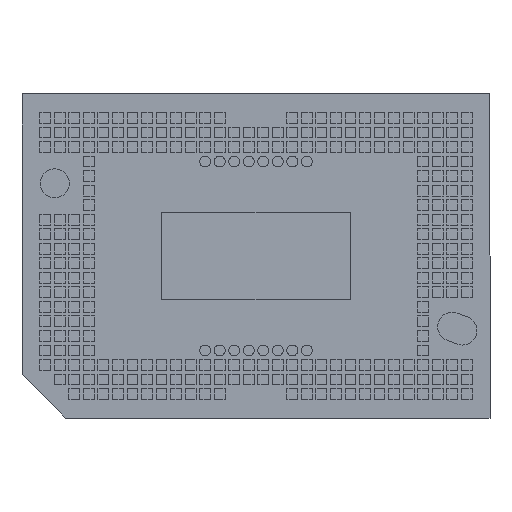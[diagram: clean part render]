
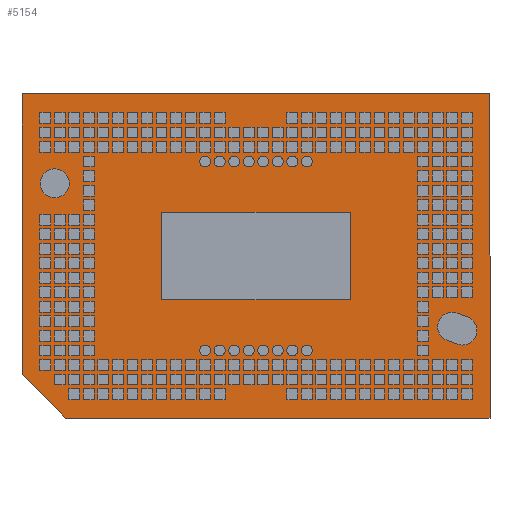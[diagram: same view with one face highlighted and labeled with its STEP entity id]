
A CAD part, front view. The second image highlights one B-rep face of the part: STEP entity #5154.
In plain terms, the highlighted planar face has unit normal (0, -1, 0).
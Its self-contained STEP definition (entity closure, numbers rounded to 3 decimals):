
#7 = PLANE ( 'NONE',  #772 ) ;
#13 = CARTESIAN_POINT ( 'NONE',  ( -16.1, 0., -8.15 ) ) ;
#205 = VERTEX_POINT ( 'NONE', #2010 ) ;
#211 = ORIENTED_EDGE ( 'NONE', *, *, #4730, .F. ) ;
#217 = VERTEX_POINT ( 'NONE', #1158 ) ;
#222 = CARTESIAN_POINT ( 'NONE',  ( -16.1, 0., -11.15 ) ) ;
#279 = ORIENTED_EDGE ( 'NONE', *, *, #3209, .F. ) ;
#292 = DIRECTION ( 'NONE',  ( 0., -1., 0. ) ) ;
#362 = ORIENTED_EDGE ( 'NONE', *, *, #3251, .F. ) ;
#371 = DIRECTION ( 'NONE',  ( -0.941, 0., 0.34 ) ) ;
#387 = EDGE_CURVE ( 'NONE', #205, #2119, #5415, .T. ) ;
#391 = DIRECTION ( 'NONE',  ( 0., -1., 0. ) ) ;
#396 = EDGE_CURVE ( 'NONE', #3843, #4180, #1358, .T. ) ;
#420 = LINE ( 'NONE', #1228, #2792 ) ;
#436 = CIRCLE ( 'NONE', #1005, 1. ) ;
#470 = DIRECTION ( 'NONE',  ( 1., 0., 0. ) ) ;
#482 = ORIENTED_EDGE ( 'NONE', *, *, #1541, .F. ) ;
#622 = EDGE_CURVE ( 'NONE', #3843, #1831, #3567, .T. ) ;
#630 = DIRECTION ( 'NONE',  ( 0., 0., -1. ) ) ;
#684 = DIRECTION ( 'NONE',  ( 0., -1., 0. ) ) ;
#772 = AXIS2_PLACEMENT_3D ( 'NONE', #2371, #3291, #1923 ) ;
#881 = ORIENTED_EDGE ( 'NONE', *, *, #5449, .F. ) ;
#1005 = AXIS2_PLACEMENT_3D ( 'NONE', #3530, #684, #4512 ) ;
#1158 = CARTESIAN_POINT ( 'NONE',  ( -13.85, 0., 6. ) ) ;
#1176 = CARTESIAN_POINT ( 'NONE',  ( 13.497, 0., -4.873 ) ) ;
#1228 = CARTESIAN_POINT ( 'NONE',  ( 13.863, 0., -6.068 ) ) ;
#1299 = DIRECTION ( 'NONE',  ( 0., 0., 1. ) ) ;
#1358 = LINE ( 'NONE', #3990, #3956 ) ;
#1541 = EDGE_CURVE ( 'NONE', #4274, #205, #4681, .T. ) ;
#1688 = EDGE_LOOP ( 'NONE', ( #5375, #2167, #3516, #362, #3999 ) ) ;
#1739 = CARTESIAN_POINT ( 'NONE',  ( -16.1, 0., 11.15 ) ) ;
#1789 = CARTESIAN_POINT ( 'NONE',  ( -13.85, 0., 5. ) ) ;
#1831 = VERTEX_POINT ( 'NONE', #3408 ) ;
#1848 = ORIENTED_EDGE ( 'NONE', *, *, #387, .F. ) ;
#1923 = DIRECTION ( 'NONE',  ( 0., 0., -1. ) ) ;
#2010 = CARTESIAN_POINT ( 'NONE',  ( 13.837, 0., -3.932 ) ) ;
#2021 = CARTESIAN_POINT ( 'NONE',  ( -13.85, 0., 4. ) ) ;
#2072 = EDGE_CURVE ( 'NONE', #2639, #4180, #3258, .T. ) ;
#2119 = VERTEX_POINT ( 'NONE', #2642 ) ;
#2139 = LINE ( 'NONE', #4313, #2288 ) ;
#2167 = ORIENTED_EDGE ( 'NONE', *, *, #396, .T. ) ;
#2229 = EDGE_CURVE ( 'NONE', #3322, #4274, #436, .T. ) ;
#2288 = VECTOR ( 'NONE', #5001, 1000. ) ;
#2330 = AXIS2_PLACEMENT_3D ( 'NONE', #5448, #292, #3236 ) ;
#2347 = CARTESIAN_POINT ( 'NONE',  ( 16.1, 0., 11.15 ) ) ;
#2371 = CARTESIAN_POINT ( 'NONE',  ( -16.1, 0., -11.15 ) ) ;
#2620 = FACE_BOUND ( 'NONE', #2665, .T. ) ;
#2627 = DIRECTION ( 'NONE',  ( 0., -1., 0. ) ) ;
#2639 = VERTEX_POINT ( 'NONE', #4669 ) ;
#2642 = CARTESIAN_POINT ( 'NONE',  ( 13.158, 0., -5.813 ) ) ;
#2665 = EDGE_LOOP ( 'NONE', ( #211, #279, #1848, #482, #5715 ) ) ;
#2792 = VECTOR ( 'NONE', #4093, 1000. ) ;
#2992 = VECTOR ( 'NONE', #470, 1000. ) ;
#3064 = VERTEX_POINT ( 'NONE', #2021 ) ;
#3074 = DIRECTION ( 'NONE',  ( -1., 0., 0. ) ) ;
#3131 = VECTOR ( 'NONE', #1299, 1000. ) ;
#3209 = EDGE_CURVE ( 'NONE', #2119, #4879, #420, .T. ) ;
#3236 = DIRECTION ( 'NONE',  ( 0., 0., -1. ) ) ;
#3251 = EDGE_CURVE ( 'NONE', #5794, #2639, #2139, .T. ) ;
#3258 = LINE ( 'NONE', #222, #3336 ) ;
#3291 = DIRECTION ( 'NONE',  ( 0., -1., 0. ) ) ;
#3322 = VERTEX_POINT ( 'NONE', #4162 ) ;
#3336 = VECTOR ( 'NONE', #3074, 1000. ) ;
#3401 = EDGE_LOOP ( 'NONE', ( #881, #5058 ) ) ;
#3408 = CARTESIAN_POINT ( 'NONE',  ( -16.1, 0., 11.15 ) ) ;
#3516 = ORIENTED_EDGE ( 'NONE', *, *, #2072, .F. ) ;
#3530 = CARTESIAN_POINT ( 'NONE',  ( 14.203, 0., -5.127 ) ) ;
#3567 = LINE ( 'NONE', #1739, #3131 ) ;
#3701 = DIRECTION ( 'NONE',  ( 0., 0., -1. ) ) ;
#3722 = CARTESIAN_POINT ( 'NONE',  ( 13.863, 0., -6.068 ) ) ;
#3731 = CIRCLE ( 'NONE', #2330, 1. ) ;
#3808 = CIRCLE ( 'NONE', #4939, 1. ) ;
#3843 = VERTEX_POINT ( 'NONE', #13 ) ;
#3956 = VECTOR ( 'NONE', #4011, 1000. ) ;
#3979 = AXIS2_PLACEMENT_3D ( 'NONE', #1176, #4493, #630 ) ;
#3990 = CARTESIAN_POINT ( 'NONE',  ( -14.6, 0., -9.65 ) ) ;
#3999 = ORIENTED_EDGE ( 'NONE', *, *, #5101, .F. ) ;
#4011 = DIRECTION ( 'NONE',  ( 0.707, 0., -0.707 ) ) ;
#4018 = VECTOR ( 'NONE', #371, 1000. ) ;
#4073 = CIRCLE ( 'NONE', #5125, 1. ) ;
#4093 = DIRECTION ( 'NONE',  ( 0.941, 0., -0.34 ) ) ;
#4162 = CARTESIAN_POINT ( 'NONE',  ( 14.203, 0., -6.127 ) ) ;
#4180 = VERTEX_POINT ( 'NONE', #4852 ) ;
#4274 = VERTEX_POINT ( 'NONE', #4336 ) ;
#4313 = CARTESIAN_POINT ( 'NONE',  ( 16.1, 0., 11.15 ) ) ;
#4336 = CARTESIAN_POINT ( 'NONE',  ( 14.542, 0., -4.187 ) ) ;
#4434 = DIRECTION ( 'NONE',  ( 0., 0., -1. ) ) ;
#4493 = DIRECTION ( 'NONE',  ( 0., -1., 0. ) ) ;
#4512 = DIRECTION ( 'NONE',  ( 0., 0., -1. ) ) ;
#4669 = CARTESIAN_POINT ( 'NONE',  ( 16.1, 0., -11.15 ) ) ;
#4681 = LINE ( 'NONE', #5615, #4018 ) ;
#4730 = EDGE_CURVE ( 'NONE', #4879, #3322, #3731, .T. ) ;
#4852 = CARTESIAN_POINT ( 'NONE',  ( -13.1, 0., -11.15 ) ) ;
#4879 = VERTEX_POINT ( 'NONE', #3722 ) ;
#4939 = AXIS2_PLACEMENT_3D ( 'NONE', #1789, #391, #3701 ) ;
#4942 = CARTESIAN_POINT ( 'NONE',  ( -13.85, 0., 5. ) ) ;
#5001 = DIRECTION ( 'NONE',  ( 0., 0., -1. ) ) ;
#5020 = EDGE_CURVE ( 'NONE', #217, #3064, #3808, .T. ) ;
#5058 = ORIENTED_EDGE ( 'NONE', *, *, #5020, .F. ) ;
#5101 = EDGE_CURVE ( 'NONE', #1831, #5794, #5345, .T. ) ;
#5123 = FACE_OUTER_BOUND ( 'NONE', #1688, .T. ) ;
#5125 = AXIS2_PLACEMENT_3D ( 'NONE', #4942, #2627, #4434 ) ;
#5154 = ADVANCED_FACE ( 'NONE', ( #2620, #5266, #5123 ), #7, .T. ) ;
#5238 = CARTESIAN_POINT ( 'NONE',  ( -16.1, 0., 11.15 ) ) ;
#5266 = FACE_BOUND ( 'NONE', #3401, .T. ) ;
#5345 = LINE ( 'NONE', #5238, #2992 ) ;
#5375 = ORIENTED_EDGE ( 'NONE', *, *, #622, .F. ) ;
#5415 = CIRCLE ( 'NONE', #3979, 1. ) ;
#5448 = CARTESIAN_POINT ( 'NONE',  ( 14.203, 0., -5.127 ) ) ;
#5449 = EDGE_CURVE ( 'NONE', #3064, #217, #4073, .T. ) ;
#5615 = CARTESIAN_POINT ( 'NONE',  ( 14.542, 0., -4.187 ) ) ;
#5715 = ORIENTED_EDGE ( 'NONE', *, *, #2229, .F. ) ;
#5794 = VERTEX_POINT ( 'NONE', #2347 ) ;
